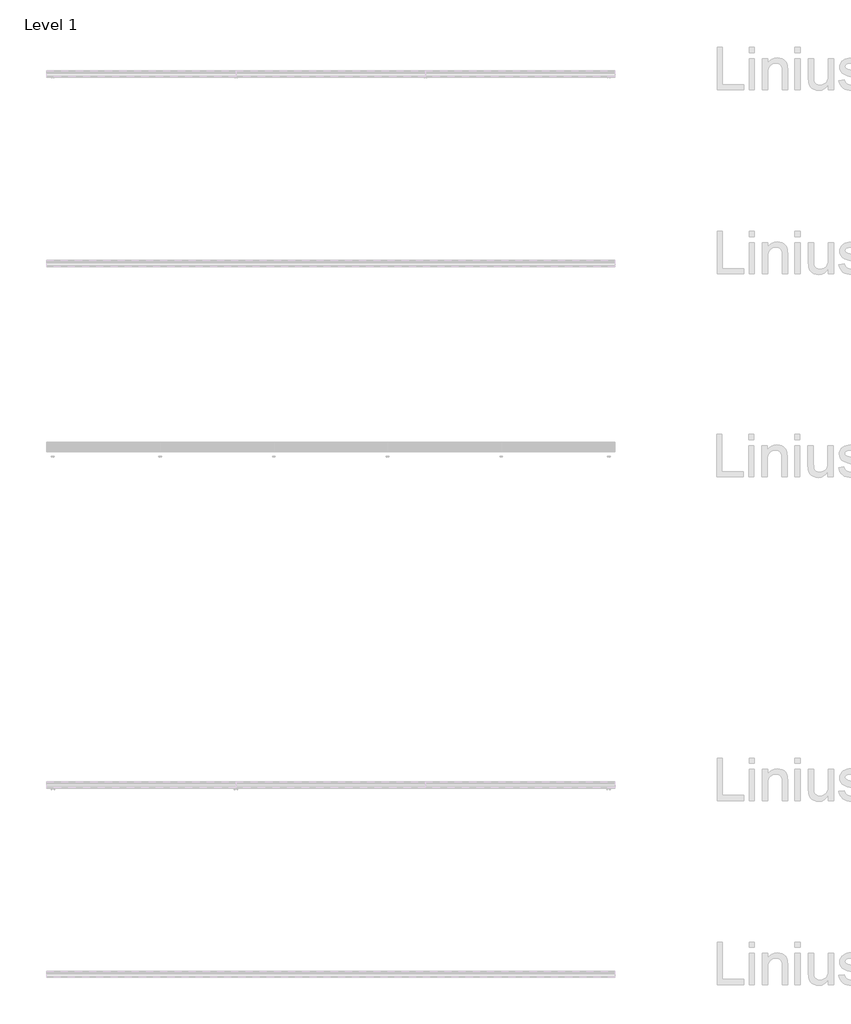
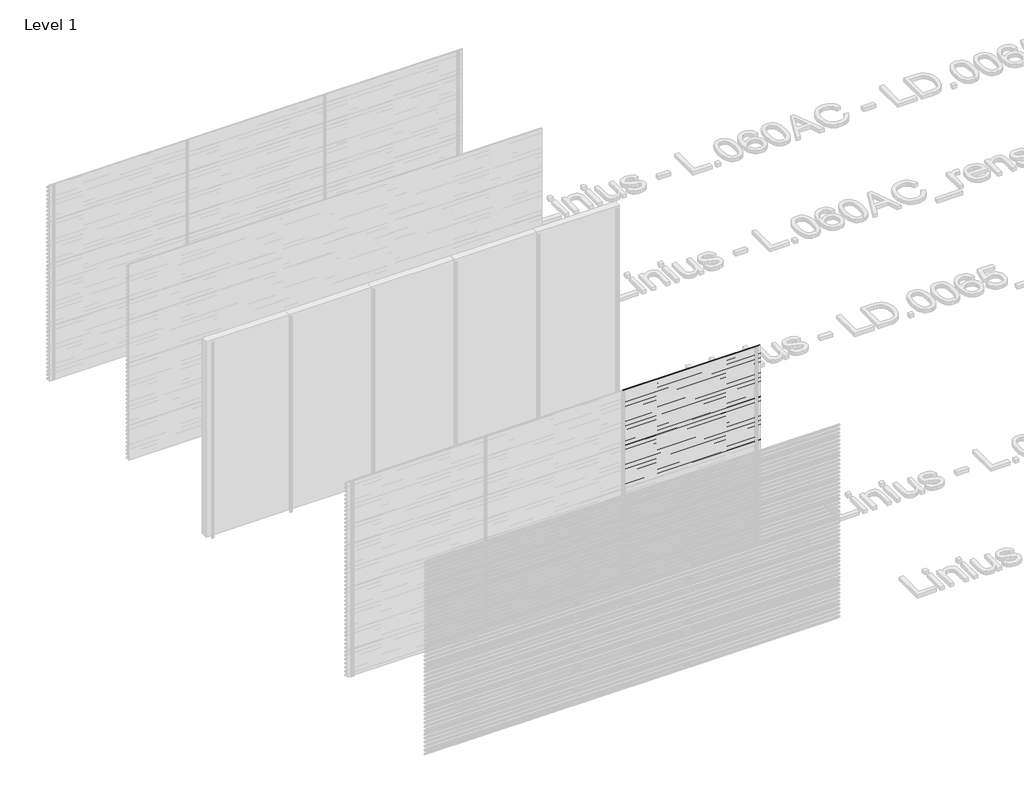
# One storey, part 146 of 153: 33 proxies.
"""IFC4 building model written with IfcOpenShell, lengths in millimetres."""

from ifc_helpers import new_model, si_unit, point, frame, frame_2d, origin, place, context, project, spatial, polyline, circle_curve, trimmed, segment, composite_curve, outline, extrude, element, save

model = new_model("IFC4")

# Units and contexts
model_context = context("Model", 3, world=origin())
ifc_project = project(units=[si_unit("LENGTHUNIT", "METRE", prefix="MILLI")], contexts=[model_context])

# Site, building, storey
site = spatial("IfcSite", under=ifc_project)
building = spatial("IfcBuilding", under=site)
storey = spatial("IfcBuildingStorey", under=building, Name="Level 1", Elevation=0.0)

# Proxies
placement = place(None, origin())
element("IfcBuildingElementProxy", 1, Name="Wall Sweeps", at=placement, inside=storey, context=model_context, shape_type="SweptSolid", body=[
    extrude(outline(composite_curve([segment(polyline([(73985.0540136, 480.0), (73999.874191, 478.7034025), (74049.0540136, 425.0102749), (74049.0540136, 413.6108187)]), True, "CONTINUOUS"), segment(trimmed(circle_curve(frame_2d((74045.7883652, 413.897153)), 3.2781774), [point((74049.0540136, 413.6108187))], [point((74046.4639442, 410.6893438))], False, "CARTESIAN"), True, "CONTINUOUS"), segment(polyline([(74046.4639442, 410.6893438), (74034.1895723, 411.6282758), (73985.0540136, 465.2730773), (73985.0540136, 480.0)]), True, "CONTINUOUS")], self_intersect=False), holes=[composite_curve([segment(polyline([(73999.1621773, 477.2599659), (73986.5540136, 478.3630372), (73986.5540136, 465.856213), (74034.8952036, 413.0786805), (74046.3312542, 412.2038762)]), True, "CONTINUOUS"), segment(trimmed(circle_curve(frame_2d((74045.7883652, 413.897153)), 1.7781774), [point((74046.3312542, 412.2038762))], [point((74047.5540136, 413.6864389))], True, "CARTESIAN"), True, "CONTINUOUS"), segment(polyline([(74047.5540136, 413.6864389), (74047.5540136, 424.4271392), (73999.1621773, 477.2599659)]), True, "CONTINUOUS")], self_intersect=False)]), frame((46966.6208098, 0.0, 0.0), z_axis=(1.0, 0.0, 0.0), x_axis=(0.0, 1.0, 0.0)), (0.0, 0.0, 1.0), 1999.9999998),
])
element("IfcBuildingElementProxy", 2, Name="Wall Sweeps", at=placement, inside=storey, context=model_context, shape_type="SweptSolid", body=[
    extrude(outline(composite_curve([segment(polyline([(73985.0540136, 420.0), (73999.874191, 418.7034025), (74049.0540136, 365.0102749), (74049.0540136, 353.6108187)]), True, "CONTINUOUS"), segment(trimmed(circle_curve(frame_2d((74045.7883652, 353.897153)), 3.2781774), [point((74049.0540136, 353.6108187))], [point((74046.4639442, 350.6893438))], False, "CARTESIAN"), True, "CONTINUOUS"), segment(polyline([(74046.4639442, 350.6893438), (74034.1895723, 351.6282758), (73985.0540136, 405.2730773), (73985.0540136, 420.0)]), True, "CONTINUOUS")], self_intersect=False), holes=[composite_curve([segment(polyline([(73999.1621773, 417.2599659), (73986.5540136, 418.3630372), (73986.5540136, 405.856213), (74034.8952036, 353.0786805), (74046.3312542, 352.2038762)]), True, "CONTINUOUS"), segment(trimmed(circle_curve(frame_2d((74045.7883652, 353.897153)), 1.7781774), [point((74046.3312542, 352.2038762))], [point((74047.5540136, 353.6864389))], True, "CARTESIAN"), True, "CONTINUOUS"), segment(polyline([(74047.5540136, 353.6864389), (74047.5540136, 364.4271392), (73999.1621773, 417.2599659)]), True, "CONTINUOUS")], self_intersect=False)]), frame((46966.6208098, 0.0, 0.0), z_axis=(1.0, 0.0, 0.0), x_axis=(0.0, 1.0, 0.0)), (0.0, 0.0, 1.0), 1999.9999998),
])
element("IfcBuildingElementProxy", 3, Name="Wall Sweeps", at=placement, inside=storey, context=model_context, shape_type="SweptSolid", body=[
    extrude(outline(composite_curve([segment(polyline([(73985.0540136, 360.0), (73999.874191, 358.7034025), (74049.0540136, 305.0102749), (74049.0540136, 293.6108187)]), True, "CONTINUOUS"), segment(trimmed(circle_curve(frame_2d((74045.7883652, 293.897153)), 3.2781774), [point((74049.0540136, 293.6108187))], [point((74046.4639442, 290.6893438))], False, "CARTESIAN"), True, "CONTINUOUS"), segment(polyline([(74046.4639442, 290.6893438), (74034.1895723, 291.6282758), (73985.0540136, 345.2730773), (73985.0540136, 360.0)]), True, "CONTINUOUS")], self_intersect=False), holes=[composite_curve([segment(polyline([(73999.1621773, 357.2599659), (73986.5540136, 358.3630372), (73986.5540136, 345.856213), (74034.8952036, 293.0786805), (74046.3312542, 292.2038762)]), True, "CONTINUOUS"), segment(trimmed(circle_curve(frame_2d((74045.7883652, 293.897153)), 1.7781774), [point((74046.3312542, 292.2038762))], [point((74047.5540136, 293.6864389))], True, "CARTESIAN"), True, "CONTINUOUS"), segment(polyline([(74047.5540136, 293.6864389), (74047.5540136, 304.4271392), (73999.1621773, 357.2599659)]), True, "CONTINUOUS")], self_intersect=False)]), frame((46966.6208098, 0.0, 0.0), z_axis=(1.0, 0.0, 0.0), x_axis=(0.0, 1.0, 0.0)), (0.0, 0.0, 1.0), 1999.9999998),
])
element("IfcBuildingElementProxy", 4, Name="Wall Sweeps", at=placement, inside=storey, context=model_context, shape_type="SweptSolid", body=[
    extrude(outline(composite_curve([segment(polyline([(73985.0540136, 300.0), (73999.874191, 298.7034025), (74049.0540136, 245.0102749), (74049.0540136, 233.6108187)]), True, "CONTINUOUS"), segment(trimmed(circle_curve(frame_2d((74045.7883652, 233.897153)), 3.2781774), [point((74049.0540136, 233.6108187))], [point((74046.4639442, 230.6893438))], False, "CARTESIAN"), True, "CONTINUOUS"), segment(polyline([(74046.4639442, 230.6893438), (74034.1895723, 231.6282758), (73985.0540136, 285.2730773), (73985.0540136, 300.0)]), True, "CONTINUOUS")], self_intersect=False), holes=[composite_curve([segment(polyline([(73999.1621773, 297.2599659), (73986.5540136, 298.3630372), (73986.5540136, 285.856213), (74034.8952036, 233.0786805), (74046.3312542, 232.2038762)]), True, "CONTINUOUS"), segment(trimmed(circle_curve(frame_2d((74045.7883652, 233.897153)), 1.7781774), [point((74046.3312542, 232.2038762))], [point((74047.5540136, 233.6864389))], True, "CARTESIAN"), True, "CONTINUOUS"), segment(polyline([(74047.5540136, 233.6864389), (74047.5540136, 244.4271392), (73999.1621773, 297.2599659)]), True, "CONTINUOUS")], self_intersect=False)]), frame((46966.6208098, 0.0, 0.0), z_axis=(1.0, 0.0, 0.0), x_axis=(0.0, 1.0, 0.0)), (0.0, 0.0, 1.0), 1999.9999998),
])
element("IfcBuildingElementProxy", 5, Name="Wall Sweeps", at=placement, inside=storey, context=model_context, shape_type="SweptSolid", body=[
    extrude(outline(composite_curve([segment(polyline([(73985.0540136, 240.0), (73999.874191, 238.7034025), (74049.0540136, 185.0102749), (74049.0540136, 173.6108187)]), True, "CONTINUOUS"), segment(trimmed(circle_curve(frame_2d((74045.7883652, 173.897153)), 3.2781774), [point((74049.0540136, 173.6108187))], [point((74046.4639442, 170.6893438))], False, "CARTESIAN"), True, "CONTINUOUS"), segment(polyline([(74046.4639442, 170.6893438), (74034.1895723, 171.6282758), (73985.0540136, 225.2730773), (73985.0540136, 240.0)]), True, "CONTINUOUS")], self_intersect=False), holes=[composite_curve([segment(polyline([(73999.1621773, 237.2599659), (73986.5540136, 238.3630372), (73986.5540136, 225.856213), (74034.8952036, 173.0786805), (74046.3312542, 172.2038762)]), True, "CONTINUOUS"), segment(trimmed(circle_curve(frame_2d((74045.7883652, 173.897153)), 1.7781774), [point((74046.3312542, 172.2038762))], [point((74047.5540136, 173.6864389))], True, "CARTESIAN"), True, "CONTINUOUS"), segment(polyline([(74047.5540136, 173.6864389), (74047.5540136, 184.4271392), (73999.1621773, 237.2599659)]), True, "CONTINUOUS")], self_intersect=False)]), frame((46966.6208098, 0.0, 0.0), z_axis=(1.0, 0.0, 0.0), x_axis=(0.0, 1.0, 0.0)), (0.0, 0.0, 1.0), 1999.9999998),
])
element("IfcBuildingElementProxy", 6, Name="Wall Sweeps", at=placement, inside=storey, context=model_context, shape_type="SweptSolid", body=[
    extrude(outline(composite_curve([segment(polyline([(73985.0540136, 180.0), (73999.874191, 178.7034025), (74049.0540136, 125.0102749), (74049.0540136, 113.6108187)]), True, "CONTINUOUS"), segment(trimmed(circle_curve(frame_2d((74045.7883652, 113.897153)), 3.2781774), [point((74049.0540136, 113.6108187))], [point((74046.4639442, 110.6893438))], False, "CARTESIAN"), True, "CONTINUOUS"), segment(polyline([(74046.4639442, 110.6893438), (74034.1895723, 111.6282758), (73985.0540136, 165.2730773), (73985.0540136, 180.0)]), True, "CONTINUOUS")], self_intersect=False), holes=[composite_curve([segment(polyline([(73999.1621773, 177.2599659), (73986.5540136, 178.3630372), (73986.5540136, 165.856213), (74034.8952036, 113.0786805), (74046.3312542, 112.2038762)]), True, "CONTINUOUS"), segment(trimmed(circle_curve(frame_2d((74045.7883652, 113.897153)), 1.7781774), [point((74046.3312542, 112.2038762))], [point((74047.5540136, 113.6864389))], True, "CARTESIAN"), True, "CONTINUOUS"), segment(polyline([(74047.5540136, 113.6864389), (74047.5540136, 124.4271392), (73999.1621773, 177.2599659)]), True, "CONTINUOUS")], self_intersect=False)]), frame((46966.6208098, 0.0, 0.0), z_axis=(1.0, 0.0, 0.0), x_axis=(0.0, 1.0, 0.0)), (0.0, 0.0, 1.0), 1999.9999998),
])
element("IfcBuildingElementProxy", 7, Name="Wall Sweeps", at=placement, inside=storey, context=model_context, shape_type="SweptSolid", body=[
    extrude(outline(composite_curve([segment(polyline([(73985.0540136, 120.0), (73999.874191, 118.7034025), (74049.0540136, 65.0102749), (74049.0540136, 53.6108187)]), True, "CONTINUOUS"), segment(trimmed(circle_curve(frame_2d((74045.7883652, 53.897153)), 3.2781774), [point((74049.0540136, 53.6108187))], [point((74046.4639442, 50.6893438))], False, "CARTESIAN"), True, "CONTINUOUS"), segment(polyline([(74046.4639442, 50.6893438), (74034.1895723, 51.6282758), (73985.0540136, 105.2730773), (73985.0540136, 120.0)]), True, "CONTINUOUS")], self_intersect=False), holes=[composite_curve([segment(polyline([(73999.1621773, 117.2599659), (73986.5540136, 118.3630372), (73986.5540136, 105.856213), (74034.8952036, 53.0786805), (74046.3312542, 52.2038762)]), True, "CONTINUOUS"), segment(trimmed(circle_curve(frame_2d((74045.7883652, 53.897153)), 1.7781774), [point((74046.3312542, 52.2038762))], [point((74047.5540136, 53.6864389))], True, "CARTESIAN"), True, "CONTINUOUS"), segment(polyline([(74047.5540136, 53.6864389), (74047.5540136, 64.4271392), (73999.1621773, 117.2599659)]), True, "CONTINUOUS")], self_intersect=False)]), frame((46966.6208098, 0.0, 0.0), z_axis=(1.0, 0.0, 0.0), x_axis=(0.0, 1.0, 0.0)), (0.0, 0.0, 1.0), 1999.9999998),
])
element("IfcBuildingElementProxy", 8, Name="Wall Sweeps", at=placement, inside=storey, context=model_context, shape_type="SweptSolid", body=[
    extrude(outline(composite_curve([segment(polyline([(73985.0540136, 60.0), (73999.874191, 58.7034025), (74049.0540136, 5.0102749), (74049.0540136, -6.3891813)]), True, "CONTINUOUS"), segment(trimmed(circle_curve(frame_2d((74045.7883652, -6.102847)), 3.2781774), [point((74049.0540136, -6.3891813))], [point((74046.4639442, -9.3106562))], False, "CARTESIAN"), True, "CONTINUOUS"), segment(polyline([(74046.4639442, -9.3106562), (74034.1895723, -8.3717242), (73985.0540136, 45.2730773), (73985.0540136, 60.0)]), True, "CONTINUOUS")], self_intersect=False), holes=[composite_curve([segment(polyline([(73999.1621773, 57.2599659), (73986.5540136, 58.3630372), (73986.5540136, 45.856213), (74034.8952036, -6.9213195), (74046.3312542, -7.7961238)]), True, "CONTINUOUS"), segment(trimmed(circle_curve(frame_2d((74045.7883652, -6.102847)), 1.7781774), [point((74046.3312542, -7.7961238))], [point((74047.5540136, -6.3135611))], True, "CARTESIAN"), True, "CONTINUOUS"), segment(polyline([(74047.5540136, -6.3135611), (74047.5540136, 4.4271392), (73999.1621773, 57.2599659)]), True, "CONTINUOUS")], self_intersect=False)]), frame((46966.6208098, 0.0, 0.0), z_axis=(1.0, 0.0, 0.0), x_axis=(0.0, 1.0, 0.0)), (0.0, 0.0, 1.0), 1999.9999998),
])
element("IfcBuildingElementProxy", 9, Name="Wall Sweeps", at=placement, inside=storey, context=model_context, shape_type="SweptSolid", body=[
    extrude(outline(composite_curve([segment(polyline([(66485.0540136, 3000.0), (66499.874191, 2998.7034025), (66549.0540136, 2945.0102749), (66549.0540136, 2933.6108187)]), True, "CONTINUOUS"), segment(trimmed(circle_curve(frame_2d((66545.7883652, 2933.897153)), 3.2781774), [point((66549.0540136, 2933.6108187))], [point((66546.4639442, 2930.6893438))], False, "CARTESIAN"), True, "CONTINUOUS"), segment(polyline([(66546.4639442, 2930.6893438), (66534.1895723, 2931.6282758), (66485.0540136, 2985.2730773), (66485.0540136, 3000.0)]), True, "CONTINUOUS")], self_intersect=False), holes=[composite_curve([segment(polyline([(66499.1621773, 2997.2599659), (66486.5540136, 2998.3630372), (66486.5540136, 2985.856213), (66534.8952036, 2933.0786805), (66546.3312542, 2932.2038762)]), True, "CONTINUOUS"), segment(trimmed(circle_curve(frame_2d((66545.7883652, 2933.897153)), 1.7781774), [point((66546.3312542, 2932.2038762))], [point((66547.5540136, 2933.6864389))], True, "CARTESIAN"), True, "CONTINUOUS"), segment(polyline([(66547.5540136, 2933.6864389), (66547.5540136, 2944.4271392), (66499.1621773, 2997.2599659)]), True, "CONTINUOUS")], self_intersect=False)]), frame((48966.6208096, 0.0, 0.0), z_axis=(1.0, 0.0, 0.0), x_axis=(0.0, 1.0, 0.0)), (0.0, 0.0, 1.0), 2000.0000001),
])
element("IfcBuildingElementProxy", 10, Name="Wall Sweeps", at=placement, inside=storey, context=model_context, shape_type="SweptSolid", body=[
    extrude(outline(composite_curve([segment(polyline([(66485.0540136, 2940.0), (66499.874191, 2938.7034025), (66549.0540136, 2885.0102749), (66549.0540136, 2873.6108187)]), True, "CONTINUOUS"), segment(trimmed(circle_curve(frame_2d((66545.7883652, 2873.897153)), 3.2781774), [point((66549.0540136, 2873.6108187))], [point((66546.4639442, 2870.6893438))], False, "CARTESIAN"), True, "CONTINUOUS"), segment(polyline([(66546.4639442, 2870.6893438), (66534.1895723, 2871.6282758), (66485.0540136, 2925.2730773), (66485.0540136, 2940.0)]), True, "CONTINUOUS")], self_intersect=False), holes=[composite_curve([segment(polyline([(66499.1621773, 2937.2599659), (66486.5540136, 2938.3630372), (66486.5540136, 2925.856213), (66534.8952036, 2873.0786805), (66546.3312542, 2872.2038762)]), True, "CONTINUOUS"), segment(trimmed(circle_curve(frame_2d((66545.7883652, 2873.897153)), 1.7781774), [point((66546.3312542, 2872.2038762))], [point((66547.5540136, 2873.6864389))], True, "CARTESIAN"), True, "CONTINUOUS"), segment(polyline([(66547.5540136, 2873.6864389), (66547.5540136, 2884.4271392), (66499.1621773, 2937.2599659)]), True, "CONTINUOUS")], self_intersect=False)]), frame((48966.6208096, 0.0, 0.0), z_axis=(1.0, 0.0, 0.0), x_axis=(0.0, 1.0, 0.0)), (0.0, 0.0, 1.0), 2000.0000001),
])
element("IfcBuildingElementProxy", 11, Name="Wall Sweeps", at=placement, inside=storey, context=model_context, shape_type="SweptSolid", body=[
    extrude(outline(composite_curve([segment(polyline([(66485.0540136, 2880.0), (66499.874191, 2878.7034025), (66549.0540136, 2825.0102749), (66549.0540136, 2813.6108187)]), True, "CONTINUOUS"), segment(trimmed(circle_curve(frame_2d((66545.7883652, 2813.897153)), 3.2781774), [point((66549.0540136, 2813.6108187))], [point((66546.4639442, 2810.6893438))], False, "CARTESIAN"), True, "CONTINUOUS"), segment(polyline([(66546.4639442, 2810.6893438), (66534.1895723, 2811.6282758), (66485.0540136, 2865.2730773), (66485.0540136, 2880.0)]), True, "CONTINUOUS")], self_intersect=False), holes=[composite_curve([segment(polyline([(66499.1621773, 2877.2599659), (66486.5540136, 2878.3630372), (66486.5540136, 2865.856213), (66534.8952036, 2813.0786805), (66546.3312542, 2812.2038762)]), True, "CONTINUOUS"), segment(trimmed(circle_curve(frame_2d((66545.7883652, 2813.897153)), 1.7781774), [point((66546.3312542, 2812.2038762))], [point((66547.5540136, 2813.6864389))], True, "CARTESIAN"), True, "CONTINUOUS"), segment(polyline([(66547.5540136, 2813.6864389), (66547.5540136, 2824.4271392), (66499.1621773, 2877.2599659)]), True, "CONTINUOUS")], self_intersect=False)]), frame((48966.6208096, 0.0, 0.0), z_axis=(1.0, 0.0, 0.0), x_axis=(0.0, 1.0, 0.0)), (0.0, 0.0, 1.0), 2000.0000001),
])
element("IfcBuildingElementProxy", 12, Name="Wall Sweeps", at=placement, inside=storey, context=model_context, shape_type="SweptSolid", body=[
    extrude(outline(composite_curve([segment(polyline([(66485.0540136, 2820.0), (66499.874191, 2818.7034025), (66549.0540136, 2765.0102749), (66549.0540136, 2753.6108187)]), True, "CONTINUOUS"), segment(trimmed(circle_curve(frame_2d((66545.7883652, 2753.897153)), 3.2781774), [point((66549.0540136, 2753.6108187))], [point((66546.4639442, 2750.6893438))], False, "CARTESIAN"), True, "CONTINUOUS"), segment(polyline([(66546.4639442, 2750.6893438), (66534.1895723, 2751.6282758), (66485.0540136, 2805.2730773), (66485.0540136, 2820.0)]), True, "CONTINUOUS")], self_intersect=False), holes=[composite_curve([segment(polyline([(66499.1621773, 2817.2599659), (66486.5540136, 2818.3630372), (66486.5540136, 2805.856213), (66534.8952036, 2753.0786805), (66546.3312542, 2752.2038762)]), True, "CONTINUOUS"), segment(trimmed(circle_curve(frame_2d((66545.7883652, 2753.897153)), 1.7781774), [point((66546.3312542, 2752.2038762))], [point((66547.5540136, 2753.6864389))], True, "CARTESIAN"), True, "CONTINUOUS"), segment(polyline([(66547.5540136, 2753.6864389), (66547.5540136, 2764.4271392), (66499.1621773, 2817.2599659)]), True, "CONTINUOUS")], self_intersect=False)]), frame((48966.6208096, 0.0, 0.0), z_axis=(1.0, 0.0, 0.0), x_axis=(0.0, 1.0, 0.0)), (0.0, 0.0, 1.0), 2000.0000001),
])
element("IfcBuildingElementProxy", 13, Name="Wall Sweeps", at=placement, inside=storey, context=model_context, shape_type="SweptSolid", body=[
    extrude(outline(composite_curve([segment(polyline([(66485.0540136, 2760.0), (66499.874191, 2758.7034025), (66549.0540136, 2705.0102749), (66549.0540136, 2693.6108187)]), True, "CONTINUOUS"), segment(trimmed(circle_curve(frame_2d((66545.7883652, 2693.897153)), 3.2781774), [point((66549.0540136, 2693.6108187))], [point((66546.4639442, 2690.6893438))], False, "CARTESIAN"), True, "CONTINUOUS"), segment(polyline([(66546.4639442, 2690.6893438), (66534.1895723, 2691.6282758), (66485.0540136, 2745.2730773), (66485.0540136, 2760.0)]), True, "CONTINUOUS")], self_intersect=False), holes=[composite_curve([segment(polyline([(66499.1621773, 2757.2599659), (66486.5540136, 2758.3630372), (66486.5540136, 2745.856213), (66534.8952036, 2693.0786805), (66546.3312542, 2692.2038762)]), True, "CONTINUOUS"), segment(trimmed(circle_curve(frame_2d((66545.7883652, 2693.897153)), 1.7781774), [point((66546.3312542, 2692.2038762))], [point((66547.5540136, 2693.6864389))], True, "CARTESIAN"), True, "CONTINUOUS"), segment(polyline([(66547.5540136, 2693.6864389), (66547.5540136, 2704.4271392), (66499.1621773, 2757.2599659)]), True, "CONTINUOUS")], self_intersect=False)]), frame((48966.6208096, 0.0, 0.0), z_axis=(1.0, 0.0, 0.0), x_axis=(0.0, 1.0, 0.0)), (0.0, 0.0, 1.0), 2000.0000001),
])
element("IfcBuildingElementProxy", 14, Name="Wall Sweeps", at=placement, inside=storey, context=model_context, shape_type="SweptSolid", body=[
    extrude(outline(composite_curve([segment(polyline([(66485.0540136, 2700.0), (66499.874191, 2698.7034025), (66549.0540136, 2645.0102749), (66549.0540136, 2633.6108187)]), True, "CONTINUOUS"), segment(trimmed(circle_curve(frame_2d((66545.7883652, 2633.897153)), 3.2781774), [point((66549.0540136, 2633.6108187))], [point((66546.4639442, 2630.6893438))], False, "CARTESIAN"), True, "CONTINUOUS"), segment(polyline([(66546.4639442, 2630.6893438), (66534.1895723, 2631.6282758), (66485.0540136, 2685.2730773), (66485.0540136, 2700.0)]), True, "CONTINUOUS")], self_intersect=False), holes=[composite_curve([segment(polyline([(66499.1621773, 2697.2599659), (66486.5540136, 2698.3630372), (66486.5540136, 2685.856213), (66534.8952036, 2633.0786805), (66546.3312542, 2632.2038762)]), True, "CONTINUOUS"), segment(trimmed(circle_curve(frame_2d((66545.7883652, 2633.897153)), 1.7781774), [point((66546.3312542, 2632.2038762))], [point((66547.5540136, 2633.6864389))], True, "CARTESIAN"), True, "CONTINUOUS"), segment(polyline([(66547.5540136, 2633.6864389), (66547.5540136, 2644.4271392), (66499.1621773, 2697.2599659)]), True, "CONTINUOUS")], self_intersect=False)]), frame((48966.6208096, 0.0, 0.0), z_axis=(1.0, 0.0, 0.0), x_axis=(0.0, 1.0, 0.0)), (0.0, 0.0, 1.0), 2000.0000001),
])
element("IfcBuildingElementProxy", 15, Name="Wall Sweeps", at=placement, inside=storey, context=model_context, shape_type="SweptSolid", body=[
    extrude(outline(composite_curve([segment(polyline([(66485.0540136, 2640.0), (66499.874191, 2638.7034025), (66549.0540136, 2585.0102749), (66549.0540136, 2573.6108187)]), True, "CONTINUOUS"), segment(trimmed(circle_curve(frame_2d((66545.7883652, 2573.897153)), 3.2781774), [point((66549.0540136, 2573.6108187))], [point((66546.4639442, 2570.6893438))], False, "CARTESIAN"), True, "CONTINUOUS"), segment(polyline([(66546.4639442, 2570.6893438), (66534.1895723, 2571.6282758), (66485.0540136, 2625.2730773), (66485.0540136, 2640.0)]), True, "CONTINUOUS")], self_intersect=False), holes=[composite_curve([segment(polyline([(66499.1621773, 2637.2599659), (66486.5540136, 2638.3630372), (66486.5540136, 2625.856213), (66534.8952036, 2573.0786805), (66546.3312542, 2572.2038762)]), True, "CONTINUOUS"), segment(trimmed(circle_curve(frame_2d((66545.7883652, 2573.897153)), 1.7781774), [point((66546.3312542, 2572.2038762))], [point((66547.5540136, 2573.6864389))], True, "CARTESIAN"), True, "CONTINUOUS"), segment(polyline([(66547.5540136, 2573.6864389), (66547.5540136, 2584.4271392), (66499.1621773, 2637.2599659)]), True, "CONTINUOUS")], self_intersect=False)]), frame((48966.6208096, 0.0, 0.0), z_axis=(1.0, 0.0, 0.0), x_axis=(0.0, 1.0, 0.0)), (0.0, 0.0, 1.0), 2000.0000001),
])
element("IfcBuildingElementProxy", 16, Name="Wall Sweeps", at=placement, inside=storey, context=model_context, shape_type="SweptSolid", body=[
    extrude(outline(composite_curve([segment(polyline([(66485.0540136, 2580.0), (66499.874191, 2578.7034025), (66549.0540136, 2525.0102749), (66549.0540136, 2513.6108187)]), True, "CONTINUOUS"), segment(trimmed(circle_curve(frame_2d((66545.7883652, 2513.897153)), 3.2781774), [point((66549.0540136, 2513.6108187))], [point((66546.4639442, 2510.6893438))], False, "CARTESIAN"), True, "CONTINUOUS"), segment(polyline([(66546.4639442, 2510.6893438), (66534.1895723, 2511.6282758), (66485.0540136, 2565.2730773), (66485.0540136, 2580.0)]), True, "CONTINUOUS")], self_intersect=False), holes=[composite_curve([segment(polyline([(66499.1621773, 2577.2599659), (66486.5540136, 2578.3630372), (66486.5540136, 2565.856213), (66534.8952036, 2513.0786805), (66546.3312542, 2512.2038762)]), True, "CONTINUOUS"), segment(trimmed(circle_curve(frame_2d((66545.7883652, 2513.897153)), 1.7781774), [point((66546.3312542, 2512.2038762))], [point((66547.5540136, 2513.6864389))], True, "CARTESIAN"), True, "CONTINUOUS"), segment(polyline([(66547.5540136, 2513.6864389), (66547.5540136, 2524.4271392), (66499.1621773, 2577.2599659)]), True, "CONTINUOUS")], self_intersect=False)]), frame((48966.6208096, 0.0, 0.0), z_axis=(1.0, 0.0, 0.0), x_axis=(0.0, 1.0, 0.0)), (0.0, 0.0, 1.0), 2000.0000001),
])
element("IfcBuildingElementProxy", 17, Name="Wall Sweeps", at=placement, inside=storey, context=model_context, shape_type="SweptSolid", body=[
    extrude(outline(composite_curve([segment(polyline([(66485.0540136, 2520.0), (66499.874191, 2518.7034025), (66549.0540136, 2465.0102749), (66549.0540136, 2453.6108187)]), True, "CONTINUOUS"), segment(trimmed(circle_curve(frame_2d((66545.7883652, 2453.897153)), 3.2781774), [point((66549.0540136, 2453.6108187))], [point((66546.4639442, 2450.6893438))], False, "CARTESIAN"), True, "CONTINUOUS"), segment(polyline([(66546.4639442, 2450.6893438), (66534.1895723, 2451.6282758), (66485.0540136, 2505.2730773), (66485.0540136, 2520.0)]), True, "CONTINUOUS")], self_intersect=False), holes=[composite_curve([segment(polyline([(66499.1621773, 2517.2599659), (66486.5540136, 2518.3630372), (66486.5540136, 2505.856213), (66534.8952036, 2453.0786805), (66546.3312542, 2452.2038762)]), True, "CONTINUOUS"), segment(trimmed(circle_curve(frame_2d((66545.7883652, 2453.897153)), 1.7781774), [point((66546.3312542, 2452.2038762))], [point((66547.5540136, 2453.6864389))], True, "CARTESIAN"), True, "CONTINUOUS"), segment(polyline([(66547.5540136, 2453.6864389), (66547.5540136, 2464.4271392), (66499.1621773, 2517.2599659)]), True, "CONTINUOUS")], self_intersect=False)]), frame((48966.6208096, 0.0, 0.0), z_axis=(1.0, 0.0, 0.0), x_axis=(0.0, 1.0, 0.0)), (0.0, 0.0, 1.0), 2000.0000001),
])
element("IfcBuildingElementProxy", 18, Name="Wall Sweeps", at=placement, inside=storey, context=model_context, shape_type="SweptSolid", body=[
    extrude(outline(composite_curve([segment(polyline([(66485.0540136, 2460.0), (66499.874191, 2458.7034025), (66549.0540136, 2405.0102749), (66549.0540136, 2393.6108187)]), True, "CONTINUOUS"), segment(trimmed(circle_curve(frame_2d((66545.7883652, 2393.897153)), 3.2781774), [point((66549.0540136, 2393.6108187))], [point((66546.4639442, 2390.6893438))], False, "CARTESIAN"), True, "CONTINUOUS"), segment(polyline([(66546.4639442, 2390.6893438), (66534.1895723, 2391.6282758), (66485.0540136, 2445.2730773), (66485.0540136, 2460.0)]), True, "CONTINUOUS")], self_intersect=False), holes=[composite_curve([segment(polyline([(66499.1621773, 2457.2599659), (66486.5540136, 2458.3630372), (66486.5540136, 2445.856213), (66534.8952036, 2393.0786805), (66546.3312542, 2392.2038762)]), True, "CONTINUOUS"), segment(trimmed(circle_curve(frame_2d((66545.7883652, 2393.897153)), 1.7781774), [point((66546.3312542, 2392.2038762))], [point((66547.5540136, 2393.6864389))], True, "CARTESIAN"), True, "CONTINUOUS"), segment(polyline([(66547.5540136, 2393.6864389), (66547.5540136, 2404.4271392), (66499.1621773, 2457.2599659)]), True, "CONTINUOUS")], self_intersect=False)]), frame((48966.6208096, 0.0, 0.0), z_axis=(1.0, 0.0, 0.0), x_axis=(0.0, 1.0, 0.0)), (0.0, 0.0, 1.0), 2000.0000001),
])
element("IfcBuildingElementProxy", 19, Name="Wall Sweeps", at=placement, inside=storey, context=model_context, shape_type="SweptSolid", body=[
    extrude(outline(composite_curve([segment(polyline([(66485.0540136, 2400.0), (66499.874191, 2398.7034025), (66549.0540136, 2345.0102749), (66549.0540136, 2333.6108187)]), True, "CONTINUOUS"), segment(trimmed(circle_curve(frame_2d((66545.7883652, 2333.897153)), 3.2781774), [point((66549.0540136, 2333.6108187))], [point((66546.4639442, 2330.6893438))], False, "CARTESIAN"), True, "CONTINUOUS"), segment(polyline([(66546.4639442, 2330.6893438), (66534.1895723, 2331.6282758), (66485.0540136, 2385.2730773), (66485.0540136, 2400.0)]), True, "CONTINUOUS")], self_intersect=False), holes=[composite_curve([segment(polyline([(66499.1621773, 2397.2599659), (66486.5540136, 2398.3630372), (66486.5540136, 2385.856213), (66534.8952036, 2333.0786805), (66546.3312542, 2332.2038762)]), True, "CONTINUOUS"), segment(trimmed(circle_curve(frame_2d((66545.7883652, 2333.897153)), 1.7781774), [point((66546.3312542, 2332.2038762))], [point((66547.5540136, 2333.6864389))], True, "CARTESIAN"), True, "CONTINUOUS"), segment(polyline([(66547.5540136, 2333.6864389), (66547.5540136, 2344.4271392), (66499.1621773, 2397.2599659)]), True, "CONTINUOUS")], self_intersect=False)]), frame((48966.6208096, 0.0, 0.0), z_axis=(1.0, 0.0, 0.0), x_axis=(0.0, 1.0, 0.0)), (0.0, 0.0, 1.0), 2000.0000001),
])
element("IfcBuildingElementProxy", 20, Name="Wall Sweeps", at=placement, inside=storey, context=model_context, shape_type="SweptSolid", body=[
    extrude(outline(composite_curve([segment(polyline([(66485.0540136, 2340.0), (66499.874191, 2338.7034025), (66549.0540136, 2285.0102749), (66549.0540136, 2273.6108187)]), True, "CONTINUOUS"), segment(trimmed(circle_curve(frame_2d((66545.7883652, 2273.897153)), 3.2781774), [point((66549.0540136, 2273.6108187))], [point((66546.4639442, 2270.6893438))], False, "CARTESIAN"), True, "CONTINUOUS"), segment(polyline([(66546.4639442, 2270.6893438), (66534.1895723, 2271.6282758), (66485.0540136, 2325.2730773), (66485.0540136, 2340.0)]), True, "CONTINUOUS")], self_intersect=False), holes=[composite_curve([segment(polyline([(66499.1621773, 2337.2599659), (66486.5540136, 2338.3630372), (66486.5540136, 2325.856213), (66534.8952036, 2273.0786805), (66546.3312542, 2272.2038762)]), True, "CONTINUOUS"), segment(trimmed(circle_curve(frame_2d((66545.7883652, 2273.897153)), 1.7781774), [point((66546.3312542, 2272.2038762))], [point((66547.5540136, 2273.6864389))], True, "CARTESIAN"), True, "CONTINUOUS"), segment(polyline([(66547.5540136, 2273.6864389), (66547.5540136, 2284.4271392), (66499.1621773, 2337.2599659)]), True, "CONTINUOUS")], self_intersect=False)]), frame((48966.6208096, 0.0, 0.0), z_axis=(1.0, 0.0, 0.0), x_axis=(0.0, 1.0, 0.0)), (0.0, 0.0, 1.0), 2000.0000001),
])
element("IfcBuildingElementProxy", 21, Name="Wall Sweeps", at=placement, inside=storey, context=model_context, shape_type="SweptSolid", body=[
    extrude(outline(composite_curve([segment(polyline([(66485.0540136, 2280.0), (66499.874191, 2278.7034025), (66549.0540136, 2225.0102749), (66549.0540136, 2213.6108187)]), True, "CONTINUOUS"), segment(trimmed(circle_curve(frame_2d((66545.7883652, 2213.897153)), 3.2781774), [point((66549.0540136, 2213.6108187))], [point((66546.4639442, 2210.6893438))], False, "CARTESIAN"), True, "CONTINUOUS"), segment(polyline([(66546.4639442, 2210.6893438), (66534.1895723, 2211.6282758), (66485.0540136, 2265.2730773), (66485.0540136, 2280.0)]), True, "CONTINUOUS")], self_intersect=False), holes=[composite_curve([segment(polyline([(66499.1621773, 2277.2599659), (66486.5540136, 2278.3630372), (66486.5540136, 2265.856213), (66534.8952036, 2213.0786805), (66546.3312542, 2212.2038762)]), True, "CONTINUOUS"), segment(trimmed(circle_curve(frame_2d((66545.7883652, 2213.897153)), 1.7781774), [point((66546.3312542, 2212.2038762))], [point((66547.5540136, 2213.6864389))], True, "CARTESIAN"), True, "CONTINUOUS"), segment(polyline([(66547.5540136, 2213.6864389), (66547.5540136, 2224.4271392), (66499.1621773, 2277.2599659)]), True, "CONTINUOUS")], self_intersect=False)]), frame((48966.6208096, 0.0, 0.0), z_axis=(1.0, 0.0, 0.0), x_axis=(0.0, 1.0, 0.0)), (0.0, 0.0, 1.0), 2000.0000001),
])
element("IfcBuildingElementProxy", 22, Name="Wall Sweeps", at=placement, inside=storey, context=model_context, shape_type="SweptSolid", body=[
    extrude(outline(composite_curve([segment(polyline([(66485.0540136, 2220.0), (66499.874191, 2218.7034025), (66549.0540136, 2165.0102749), (66549.0540136, 2153.6108187)]), True, "CONTINUOUS"), segment(trimmed(circle_curve(frame_2d((66545.7883652, 2153.897153)), 3.2781774), [point((66549.0540136, 2153.6108187))], [point((66546.4639442, 2150.6893438))], False, "CARTESIAN"), True, "CONTINUOUS"), segment(polyline([(66546.4639442, 2150.6893438), (66534.1895723, 2151.6282758), (66485.0540136, 2205.2730773), (66485.0540136, 2220.0)]), True, "CONTINUOUS")], self_intersect=False), holes=[composite_curve([segment(polyline([(66499.1621773, 2217.2599659), (66486.5540136, 2218.3630372), (66486.5540136, 2205.856213), (66534.8952036, 2153.0786805), (66546.3312542, 2152.2038762)]), True, "CONTINUOUS"), segment(trimmed(circle_curve(frame_2d((66545.7883652, 2153.897153)), 1.7781774), [point((66546.3312542, 2152.2038762))], [point((66547.5540136, 2153.6864389))], True, "CARTESIAN"), True, "CONTINUOUS"), segment(polyline([(66547.5540136, 2153.6864389), (66547.5540136, 2164.4271392), (66499.1621773, 2217.2599659)]), True, "CONTINUOUS")], self_intersect=False)]), frame((48966.6208096, 0.0, 0.0), z_axis=(1.0, 0.0, 0.0), x_axis=(0.0, 1.0, 0.0)), (0.0, 0.0, 1.0), 2000.0000001),
])
element("IfcBuildingElementProxy", 23, Name="Wall Sweeps", at=placement, inside=storey, context=model_context, shape_type="SweptSolid", body=[
    extrude(outline(composite_curve([segment(polyline([(66485.0540136, 2160.0), (66499.874191, 2158.7034025), (66549.0540136, 2105.0102749), (66549.0540136, 2093.6108187)]), True, "CONTINUOUS"), segment(trimmed(circle_curve(frame_2d((66545.7883652, 2093.897153)), 3.2781774), [point((66549.0540136, 2093.6108187))], [point((66546.4639442, 2090.6893438))], False, "CARTESIAN"), True, "CONTINUOUS"), segment(polyline([(66546.4639442, 2090.6893438), (66534.1895723, 2091.6282758), (66485.0540136, 2145.2730773), (66485.0540136, 2160.0)]), True, "CONTINUOUS")], self_intersect=False), holes=[composite_curve([segment(polyline([(66499.1621773, 2157.2599659), (66486.5540136, 2158.3630372), (66486.5540136, 2145.856213), (66534.8952036, 2093.0786805), (66546.3312542, 2092.2038762)]), True, "CONTINUOUS"), segment(trimmed(circle_curve(frame_2d((66545.7883652, 2093.897153)), 1.7781774), [point((66546.3312542, 2092.2038762))], [point((66547.5540136, 2093.6864389))], True, "CARTESIAN"), True, "CONTINUOUS"), segment(polyline([(66547.5540136, 2093.6864389), (66547.5540136, 2104.4271392), (66499.1621773, 2157.2599659)]), True, "CONTINUOUS")], self_intersect=False)]), frame((48966.6208096, 0.0, 0.0), z_axis=(1.0, 0.0, 0.0), x_axis=(0.0, 1.0, 0.0)), (0.0, 0.0, 1.0), 2000.0000001),
])
element("IfcBuildingElementProxy", 24, Name="Wall Sweeps", at=placement, inside=storey, context=model_context, shape_type="SweptSolid", body=[
    extrude(outline(composite_curve([segment(polyline([(66485.0540136, 2100.0), (66499.874191, 2098.7034025), (66549.0540136, 2045.0102749), (66549.0540136, 2033.6108187)]), True, "CONTINUOUS"), segment(trimmed(circle_curve(frame_2d((66545.7883652, 2033.897153)), 3.2781774), [point((66549.0540136, 2033.6108187))], [point((66546.4639442, 2030.6893438))], False, "CARTESIAN"), True, "CONTINUOUS"), segment(polyline([(66546.4639442, 2030.6893438), (66534.1895723, 2031.6282758), (66485.0540136, 2085.2730773), (66485.0540136, 2100.0)]), True, "CONTINUOUS")], self_intersect=False), holes=[composite_curve([segment(polyline([(66499.1621773, 2097.2599659), (66486.5540136, 2098.3630372), (66486.5540136, 2085.856213), (66534.8952036, 2033.0786805), (66546.3312542, 2032.2038762)]), True, "CONTINUOUS"), segment(trimmed(circle_curve(frame_2d((66545.7883652, 2033.897153)), 1.7781774), [point((66546.3312542, 2032.2038762))], [point((66547.5540136, 2033.6864389))], True, "CARTESIAN"), True, "CONTINUOUS"), segment(polyline([(66547.5540136, 2033.6864389), (66547.5540136, 2044.4271392), (66499.1621773, 2097.2599659)]), True, "CONTINUOUS")], self_intersect=False)]), frame((48966.6208096, 0.0, 0.0), z_axis=(1.0, 0.0, 0.0), x_axis=(0.0, 1.0, 0.0)), (0.0, 0.0, 1.0), 2000.0000001),
])
element("IfcBuildingElementProxy", 25, Name="Wall Sweeps", at=placement, inside=storey, context=model_context, shape_type="SweptSolid", body=[
    extrude(outline(composite_curve([segment(polyline([(66485.0540136, 2040.0), (66499.874191, 2038.7034025), (66549.0540136, 1985.0102749), (66549.0540136, 1973.6108187)]), True, "CONTINUOUS"), segment(trimmed(circle_curve(frame_2d((66545.7883652, 1973.897153)), 3.2781774), [point((66549.0540136, 1973.6108187))], [point((66546.4639442, 1970.6893438))], False, "CARTESIAN"), True, "CONTINUOUS"), segment(polyline([(66546.4639442, 1970.6893438), (66534.1895723, 1971.6282758), (66485.0540136, 2025.2730773), (66485.0540136, 2040.0)]), True, "CONTINUOUS")], self_intersect=False), holes=[composite_curve([segment(polyline([(66499.1621773, 2037.2599659), (66486.5540136, 2038.3630372), (66486.5540136, 2025.856213), (66534.8952036, 1973.0786805), (66546.3312542, 1972.2038762)]), True, "CONTINUOUS"), segment(trimmed(circle_curve(frame_2d((66545.7883652, 1973.897153)), 1.7781774), [point((66546.3312542, 1972.2038762))], [point((66547.5540136, 1973.6864389))], True, "CARTESIAN"), True, "CONTINUOUS"), segment(polyline([(66547.5540136, 1973.6864389), (66547.5540136, 1984.4271392), (66499.1621773, 2037.2599659)]), True, "CONTINUOUS")], self_intersect=False)]), frame((48966.6208096, 0.0, 0.0), z_axis=(1.0, 0.0, 0.0), x_axis=(0.0, 1.0, 0.0)), (0.0, 0.0, 1.0), 2000.0000001),
])
element("IfcBuildingElementProxy", 26, Name="Wall Sweeps", at=placement, inside=storey, context=model_context, shape_type="SweptSolid", body=[
    extrude(outline(composite_curve([segment(polyline([(66485.0540136, 1980.0), (66499.874191, 1978.7034025), (66549.0540136, 1925.0102749), (66549.0540136, 1913.6108187)]), True, "CONTINUOUS"), segment(trimmed(circle_curve(frame_2d((66545.7883652, 1913.897153)), 3.2781774), [point((66549.0540136, 1913.6108187))], [point((66546.4639442, 1910.6893438))], False, "CARTESIAN"), True, "CONTINUOUS"), segment(polyline([(66546.4639442, 1910.6893438), (66534.1895723, 1911.6282758), (66485.0540136, 1965.2730773), (66485.0540136, 1980.0)]), True, "CONTINUOUS")], self_intersect=False), holes=[composite_curve([segment(polyline([(66499.1621773, 1977.2599659), (66486.5540136, 1978.3630372), (66486.5540136, 1965.856213), (66534.8952036, 1913.0786805), (66546.3312542, 1912.2038762)]), True, "CONTINUOUS"), segment(trimmed(circle_curve(frame_2d((66545.7883652, 1913.897153)), 1.7781774), [point((66546.3312542, 1912.2038762))], [point((66547.5540136, 1913.6864389))], True, "CARTESIAN"), True, "CONTINUOUS"), segment(polyline([(66547.5540136, 1913.6864389), (66547.5540136, 1924.4271392), (66499.1621773, 1977.2599659)]), True, "CONTINUOUS")], self_intersect=False)]), frame((48966.6208096, 0.0, 0.0), z_axis=(1.0, 0.0, 0.0), x_axis=(0.0, 1.0, 0.0)), (0.0, 0.0, 1.0), 2000.0000001),
])
element("IfcBuildingElementProxy", 27, Name="Wall Sweeps", at=placement, inside=storey, context=model_context, shape_type="SweptSolid", body=[
    extrude(outline(composite_curve([segment(polyline([(66485.0540136, 1920.0), (66499.874191, 1918.7034025), (66549.0540136, 1865.0102749), (66549.0540136, 1853.6108187)]), True, "CONTINUOUS"), segment(trimmed(circle_curve(frame_2d((66545.7883652, 1853.897153)), 3.2781774), [point((66549.0540136, 1853.6108187))], [point((66546.4639442, 1850.6893438))], False, "CARTESIAN"), True, "CONTINUOUS"), segment(polyline([(66546.4639442, 1850.6893438), (66534.1895723, 1851.6282758), (66485.0540136, 1905.2730773), (66485.0540136, 1920.0)]), True, "CONTINUOUS")], self_intersect=False), holes=[composite_curve([segment(polyline([(66499.1621773, 1917.2599659), (66486.5540136, 1918.3630372), (66486.5540136, 1905.856213), (66534.8952036, 1853.0786805), (66546.3312542, 1852.2038762)]), True, "CONTINUOUS"), segment(trimmed(circle_curve(frame_2d((66545.7883652, 1853.897153)), 1.7781774), [point((66546.3312542, 1852.2038762))], [point((66547.5540136, 1853.6864389))], True, "CARTESIAN"), True, "CONTINUOUS"), segment(polyline([(66547.5540136, 1853.6864389), (66547.5540136, 1864.4271392), (66499.1621773, 1917.2599659)]), True, "CONTINUOUS")], self_intersect=False)]), frame((48966.6208096, 0.0, 0.0), z_axis=(1.0, 0.0, 0.0), x_axis=(0.0, 1.0, 0.0)), (0.0, 0.0, 1.0), 2000.0000001),
])
element("IfcBuildingElementProxy", 28, Name="Wall Sweeps", at=placement, inside=storey, context=model_context, shape_type="SweptSolid", body=[
    extrude(outline(composite_curve([segment(polyline([(66485.0540136, 1860.0), (66499.874191, 1858.7034025), (66549.0540136, 1805.0102749), (66549.0540136, 1793.6108187)]), True, "CONTINUOUS"), segment(trimmed(circle_curve(frame_2d((66545.7883652, 1793.897153)), 3.2781774), [point((66549.0540136, 1793.6108187))], [point((66546.4639442, 1790.6893438))], False, "CARTESIAN"), True, "CONTINUOUS"), segment(polyline([(66546.4639442, 1790.6893438), (66534.1895723, 1791.6282758), (66485.0540136, 1845.2730773), (66485.0540136, 1860.0)]), True, "CONTINUOUS")], self_intersect=False), holes=[composite_curve([segment(polyline([(66499.1621773, 1857.2599659), (66486.5540136, 1858.3630372), (66486.5540136, 1845.856213), (66534.8952036, 1793.0786805), (66546.3312542, 1792.2038762)]), True, "CONTINUOUS"), segment(trimmed(circle_curve(frame_2d((66545.7883652, 1793.897153)), 1.7781774), [point((66546.3312542, 1792.2038762))], [point((66547.5540136, 1793.6864389))], True, "CARTESIAN"), True, "CONTINUOUS"), segment(polyline([(66547.5540136, 1793.6864389), (66547.5540136, 1804.4271392), (66499.1621773, 1857.2599659)]), True, "CONTINUOUS")], self_intersect=False)]), frame((48966.6208096, 0.0, 0.0), z_axis=(1.0, 0.0, 0.0), x_axis=(0.0, 1.0, 0.0)), (0.0, 0.0, 1.0), 2000.0000001),
])
element("IfcBuildingElementProxy", 29, Name="Wall Sweeps", at=placement, inside=storey, context=model_context, shape_type="SweptSolid", body=[
    extrude(outline(composite_curve([segment(polyline([(66485.0540136, 1800.0), (66499.874191, 1798.7034025), (66549.0540136, 1745.0102749), (66549.0540136, 1733.6108187)]), True, "CONTINUOUS"), segment(trimmed(circle_curve(frame_2d((66545.7883652, 1733.897153)), 3.2781774), [point((66549.0540136, 1733.6108187))], [point((66546.4639442, 1730.6893438))], False, "CARTESIAN"), True, "CONTINUOUS"), segment(polyline([(66546.4639442, 1730.6893438), (66534.1895723, 1731.6282758), (66485.0540136, 1785.2730773), (66485.0540136, 1800.0)]), True, "CONTINUOUS")], self_intersect=False), holes=[composite_curve([segment(polyline([(66499.1621773, 1797.2599659), (66486.5540136, 1798.3630372), (66486.5540136, 1785.856213), (66534.8952036, 1733.0786805), (66546.3312542, 1732.2038762)]), True, "CONTINUOUS"), segment(trimmed(circle_curve(frame_2d((66545.7883652, 1733.897153)), 1.7781774), [point((66546.3312542, 1732.2038762))], [point((66547.5540136, 1733.6864389))], True, "CARTESIAN"), True, "CONTINUOUS"), segment(polyline([(66547.5540136, 1733.6864389), (66547.5540136, 1744.4271392), (66499.1621773, 1797.2599659)]), True, "CONTINUOUS")], self_intersect=False)]), frame((48966.6208096, 0.0, 0.0), z_axis=(1.0, 0.0, 0.0), x_axis=(0.0, 1.0, 0.0)), (0.0, 0.0, 1.0), 2000.0000001),
])
element("IfcBuildingElementProxy", 30, Name="Wall Sweeps", at=placement, inside=storey, context=model_context, shape_type="SweptSolid", body=[
    extrude(outline(composite_curve([segment(polyline([(66485.0540136, 1740.0), (66499.874191, 1738.7034025), (66549.0540136, 1685.0102749), (66549.0540136, 1673.6108187)]), True, "CONTINUOUS"), segment(trimmed(circle_curve(frame_2d((66545.7883652, 1673.897153)), 3.2781774), [point((66549.0540136, 1673.6108187))], [point((66546.4639442, 1670.6893438))], False, "CARTESIAN"), True, "CONTINUOUS"), segment(polyline([(66546.4639442, 1670.6893438), (66534.1895723, 1671.6282758), (66485.0540136, 1725.2730773), (66485.0540136, 1740.0)]), True, "CONTINUOUS")], self_intersect=False), holes=[composite_curve([segment(polyline([(66499.1621773, 1737.2599659), (66486.5540136, 1738.3630372), (66486.5540136, 1725.856213), (66534.8952036, 1673.0786805), (66546.3312542, 1672.2038762)]), True, "CONTINUOUS"), segment(trimmed(circle_curve(frame_2d((66545.7883652, 1673.897153)), 1.7781774), [point((66546.3312542, 1672.2038762))], [point((66547.5540136, 1673.6864389))], True, "CARTESIAN"), True, "CONTINUOUS"), segment(polyline([(66547.5540136, 1673.6864389), (66547.5540136, 1684.4271392), (66499.1621773, 1737.2599659)]), True, "CONTINUOUS")], self_intersect=False)]), frame((48966.6208096, 0.0, 0.0), z_axis=(1.0, 0.0, 0.0), x_axis=(0.0, 1.0, 0.0)), (0.0, 0.0, 1.0), 2000.0000001),
])
element("IfcBuildingElementProxy", 31, Name="Wall Sweeps", at=placement, inside=storey, context=model_context, shape_type="SweptSolid", body=[
    extrude(outline(composite_curve([segment(polyline([(66485.0540136, 1680.0), (66499.874191, 1678.7034025), (66549.0540136, 1625.0102749), (66549.0540136, 1613.6108187)]), True, "CONTINUOUS"), segment(trimmed(circle_curve(frame_2d((66545.7883652, 1613.897153)), 3.2781774), [point((66549.0540136, 1613.6108187))], [point((66546.4639442, 1610.6893438))], False, "CARTESIAN"), True, "CONTINUOUS"), segment(polyline([(66546.4639442, 1610.6893438), (66534.1895723, 1611.6282758), (66485.0540136, 1665.2730773), (66485.0540136, 1680.0)]), True, "CONTINUOUS")], self_intersect=False), holes=[composite_curve([segment(polyline([(66499.1621773, 1677.2599659), (66486.5540136, 1678.3630372), (66486.5540136, 1665.856213), (66534.8952036, 1613.0786805), (66546.3312542, 1612.2038762)]), True, "CONTINUOUS"), segment(trimmed(circle_curve(frame_2d((66545.7883652, 1613.897153)), 1.7781774), [point((66546.3312542, 1612.2038762))], [point((66547.5540136, 1613.6864389))], True, "CARTESIAN"), True, "CONTINUOUS"), segment(polyline([(66547.5540136, 1613.6864389), (66547.5540136, 1624.4271392), (66499.1621773, 1677.2599659)]), True, "CONTINUOUS")], self_intersect=False)]), frame((48966.6208096, 0.0, 0.0), z_axis=(1.0, 0.0, 0.0), x_axis=(0.0, 1.0, 0.0)), (0.0, 0.0, 1.0), 2000.0000001),
])
element("IfcBuildingElementProxy", 32, Name="Wall Sweeps", at=placement, inside=storey, context=model_context, shape_type="SweptSolid", body=[
    extrude(outline(composite_curve([segment(polyline([(66485.0540136, 1620.0), (66499.874191, 1618.7034025), (66549.0540136, 1565.0102749), (66549.0540136, 1553.6108187)]), True, "CONTINUOUS"), segment(trimmed(circle_curve(frame_2d((66545.7883652, 1553.897153)), 3.2781774), [point((66549.0540136, 1553.6108187))], [point((66546.4639442, 1550.6893438))], False, "CARTESIAN"), True, "CONTINUOUS"), segment(polyline([(66546.4639442, 1550.6893438), (66534.1895723, 1551.6282758), (66485.0540136, 1605.2730773), (66485.0540136, 1620.0)]), True, "CONTINUOUS")], self_intersect=False), holes=[composite_curve([segment(polyline([(66499.1621773, 1617.2599659), (66486.5540136, 1618.3630372), (66486.5540136, 1605.856213), (66534.8952036, 1553.0786805), (66546.3312542, 1552.2038762)]), True, "CONTINUOUS"), segment(trimmed(circle_curve(frame_2d((66545.7883652, 1553.897153)), 1.7781774), [point((66546.3312542, 1552.2038762))], [point((66547.5540136, 1553.6864389))], True, "CARTESIAN"), True, "CONTINUOUS"), segment(polyline([(66547.5540136, 1553.6864389), (66547.5540136, 1564.4271392), (66499.1621773, 1617.2599659)]), True, "CONTINUOUS")], self_intersect=False)]), frame((48966.6208096, 0.0, 0.0), z_axis=(1.0, 0.0, 0.0), x_axis=(0.0, 1.0, 0.0)), (0.0, 0.0, 1.0), 2000.0000001),
])
element("IfcBuildingElementProxy", 33, Name="Wall Sweeps", at=placement, inside=storey, context=model_context, shape_type="SweptSolid", body=[
    extrude(outline(composite_curve([segment(polyline([(66485.0540136, 1560.0), (66499.874191, 1558.7034025), (66549.0540136, 1505.0102749), (66549.0540136, 1493.6108187)]), True, "CONTINUOUS"), segment(trimmed(circle_curve(frame_2d((66545.7883652, 1493.897153)), 3.2781774), [point((66549.0540136, 1493.6108187))], [point((66546.4639442, 1490.6893438))], False, "CARTESIAN"), True, "CONTINUOUS"), segment(polyline([(66546.4639442, 1490.6893438), (66534.1895723, 1491.6282758), (66485.0540136, 1545.2730773), (66485.0540136, 1560.0)]), True, "CONTINUOUS")], self_intersect=False), holes=[composite_curve([segment(polyline([(66499.1621773, 1557.2599659), (66486.5540136, 1558.3630372), (66486.5540136, 1545.856213), (66534.8952036, 1493.0786805), (66546.3312542, 1492.2038762)]), True, "CONTINUOUS"), segment(trimmed(circle_curve(frame_2d((66545.7883652, 1493.897153)), 1.7781774), [point((66546.3312542, 1492.2038762))], [point((66547.5540136, 1493.6864389))], True, "CARTESIAN"), True, "CONTINUOUS"), segment(polyline([(66547.5540136, 1493.6864389), (66547.5540136, 1504.4271392), (66499.1621773, 1557.2599659)]), True, "CONTINUOUS")], self_intersect=False)]), frame((48966.6208096, 0.0, 0.0), z_axis=(1.0, 0.0, 0.0), x_axis=(0.0, 1.0, 0.0)), (0.0, 0.0, 1.0), 2000.0000001),
])

save(model, "model.ifc")
